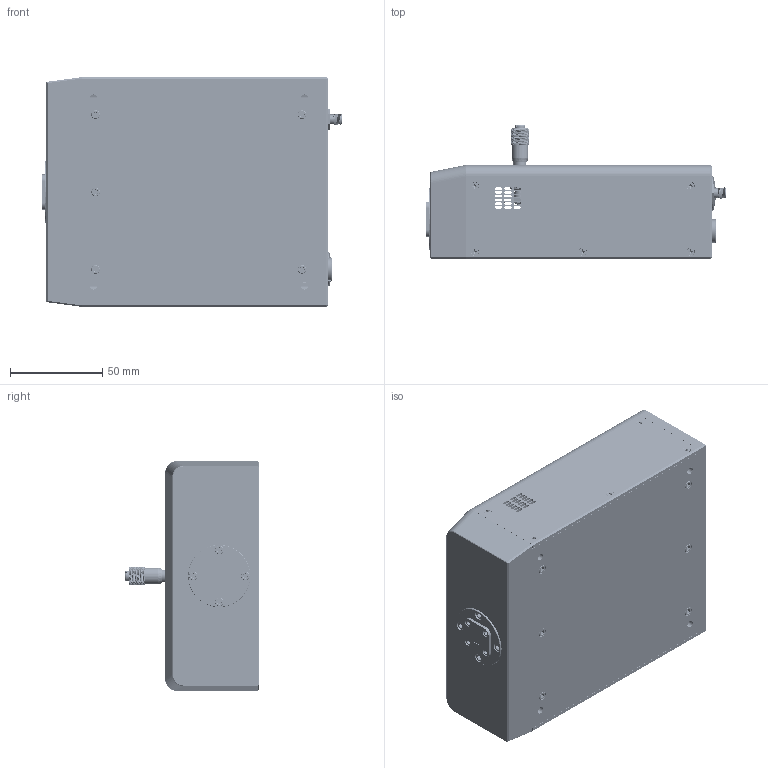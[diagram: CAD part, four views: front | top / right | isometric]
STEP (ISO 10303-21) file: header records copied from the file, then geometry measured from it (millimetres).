
FILE_DESCRIPTION (( 'STEP AP214' ), '1' );
FILE_NAME ('TE-A, Mountable.STEP', '2025-01-10T22:44:11', ( '' ), ( '' ), 'SwSTEP 2.0', 'SolidWorks 2021', '' );
FILE_SCHEMA (( 'AUTOMOTIVE_DESIGN' ));
Length unit declared in the file: inch
Products named in the file (1): TE-A, Mountable
Bounding box: 162.31 x 72.66 x 124.32 mm (x, y, z)
Volume: 303215.8 mm3; surface area: 163737.7 mm2
Topology: 47 solids, 47 shells, 7291 faces, 17410 edges, 10270 vertices
Faces by surface type: bspline 2676, cylinder 2629, plane 1425, cone 517, torus 36, sphere 8
Entity records: 720296 total; most frequent: CARTESIAN_POINT 591086, ORIENTED_EDGE 34706, DIRECTION 18315, EDGE_CURVE 17353, VERTEX_POINT 10267, EDGE_LOOP 7622, FACE_OUTER_BOUND 7291, ADVANCED_FACE 7291
